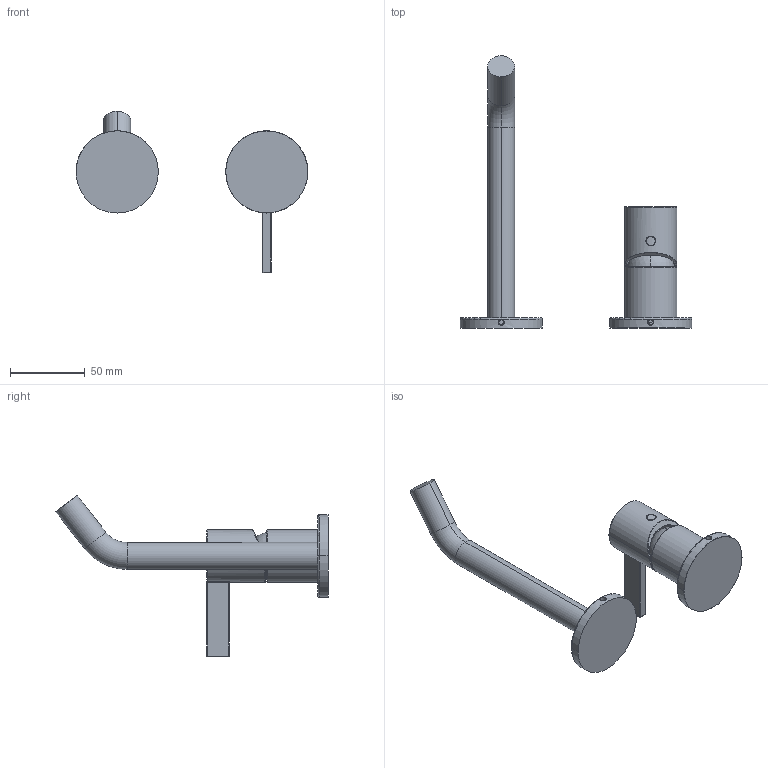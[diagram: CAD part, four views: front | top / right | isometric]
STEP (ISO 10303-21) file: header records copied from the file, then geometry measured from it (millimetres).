
FILE_DESCRIPTION((''),'2;1');
FILE_NAME('5-01670-000D3','2018-06-22T',('miluro01'),(''),'PRO/ENGINEER BY PARAMETRIC TECHNOLOGY CORPORATION, 2013410','PRO/ENGINEER BY PARAMETRIC TECHNOLOGY CORPORATION, 2013410','');
FILE_SCHEMA(('CONFIG_CONTROL_DESIGN'));
Length unit declared in the file: millimetre
Products named in the file (1): 5-01670-000D3
Bounding box: 155 x 182.09 x 107.94 mm (x, y, z)
Surface area: 42001.4 mm2 (no closed solid volume)
Topology: 0 solids, 10 shells, 250 faces, 623 edges, 378 vertices
Faces by surface type: cylinder 87, bspline 87, plane 38, torus 23, sphere 8, cone 7
Entity records: 16191 total; most frequent: CARTESIAN_POINT 11022, ORIENTED_EDGE 1193, DIRECTION 856, EDGE_CURVE 623, VERTEX_POINT 378, AXIS2_PLACEMENT_3D 348, B_SPLINE_CURVE_WITH_KNOTS 278, EDGE_LOOP 250
